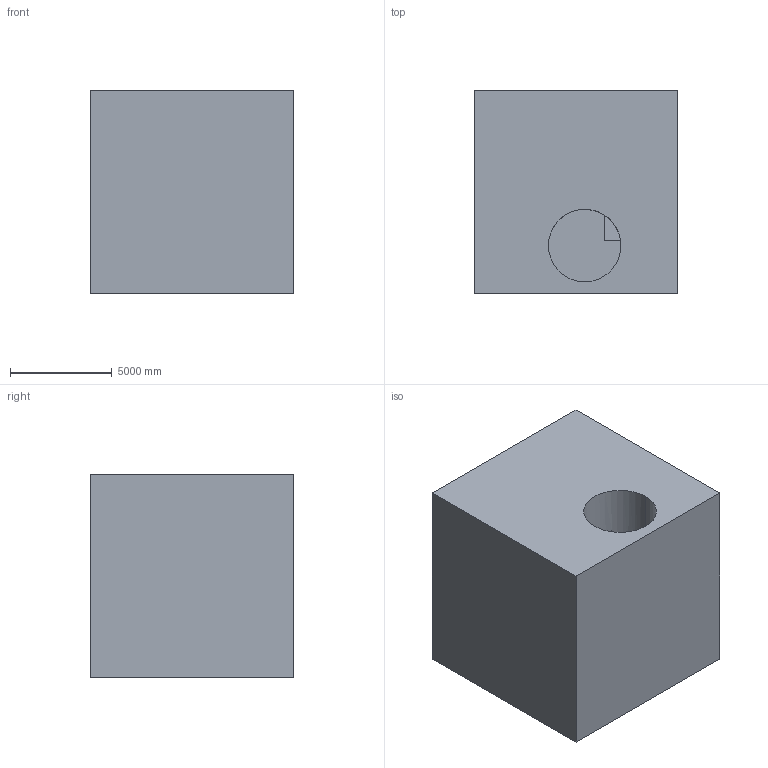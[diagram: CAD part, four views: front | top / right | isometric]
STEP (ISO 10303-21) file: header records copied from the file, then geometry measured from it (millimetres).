
FILE_DESCRIPTION (( 'STEP AP203' ), '1' );
FILE_NAME ('76.STEP', '2022-07-28T13:33:28', ( 'user' ), ( '' ), 'SwSTEP 2.0', 'SolidWorks 2021', '' );
FILE_SCHEMA (( 'CONFIG_CONTROL_DESIGN' ));
Length unit declared in the file: centimetre
Products named in the file (1): 76
Bounding box: 10000 x 10000 x 10000 mm (x, y, z)
Volume: 855269165981.2 mm3; surface area: 732101560.7 mm2
Topology: 1 solids, 1 shells, 13 faces, 33 edges, 22 vertices
Faces by surface type: plane 11, cylinder 2
Entity records: 473 total; most frequent: CARTESIAN_POINT 72, ORIENTED_EDGE 66, DIRECTION 65, EDGE_CURVE 33, LINE 27, VECTOR 27, VERTEX_POINT 22, AXIS2_PLACEMENT_3D 19
